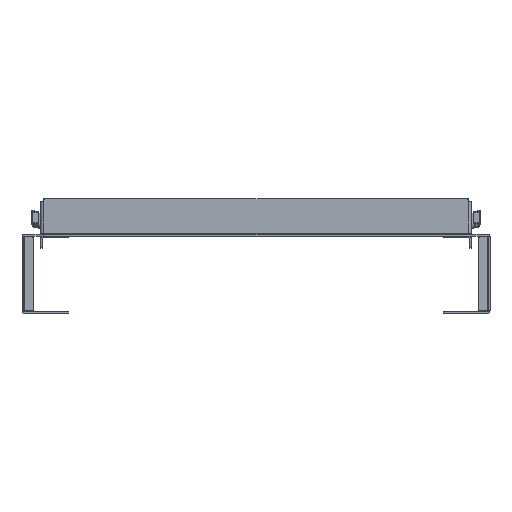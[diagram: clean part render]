
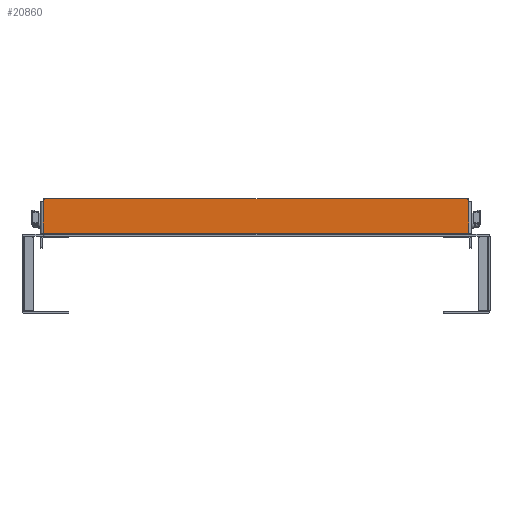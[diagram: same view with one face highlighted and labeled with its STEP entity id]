
A CAD part, front view. The second image highlights one B-rep face of the part: STEP entity #20860.
In plain terms, the highlighted planar face has unit normal (0, -1, 0) as drawn and (0, 1, 0) by its records, which use the part's own axes.
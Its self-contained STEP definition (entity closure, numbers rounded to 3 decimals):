
#361 = CARTESIAN_POINT ( 'NONE',  ( -13.4, 1.5, -179. ) ) ;
#827 = EDGE_CURVE ( 'NONE', #25012, #5665, #3097, .T. ) ;
#1043 = CARTESIAN_POINT ( 'NONE',  ( 13.4, 1.5, -179. ) ) ;
#1066 = DIRECTION ( 'NONE',  ( -1., 0., 0. ) ) ;
#1129 = CARTESIAN_POINT ( 'NONE',  ( -13.4, 1.5, 179. ) ) ;
#1240 = EDGE_CURVE ( 'NONE', #13788, #8624, #20373, .T. ) ;
#2066 = EDGE_CURVE ( 'NONE', #5665, #14979, #7338, .T. ) ;
#2204 = LINE ( 'NONE', #21109, #18207 ) ;
#2237 = CARTESIAN_POINT ( 'NONE',  ( -13.735, 1.5, 179. ) ) ;
#2567 = CARTESIAN_POINT ( 'NONE',  ( -15.835, 1.5, 179. ) ) ;
#3097 = CIRCLE ( 'NONE', #11026, 2. ) ;
#3109 = CIRCLE ( 'NONE', #18522, 2. ) ;
#3381 = LINE ( 'NONE', #1043, #21339 ) ;
#3611 = DIRECTION ( 'NONE',  ( 0., 1., 0. ) ) ;
#3920 = CARTESIAN_POINT ( 'NONE',  ( 13.835, 1.5, 179. ) ) ;
#3962 = EDGE_CURVE ( 'NONE', #20507, #8624, #21137, .T. ) ;
#4120 = ORIENTED_EDGE ( 'NONE', *, *, #5629, .T. ) ;
#4261 = VERTEX_POINT ( 'NONE', #7614 ) ;
#5307 = DIRECTION ( 'NONE',  ( -1., 0., 0. ) ) ;
#5629 = EDGE_CURVE ( 'NONE', #14979, #4261, #3109, .T. ) ;
#5665 = VERTEX_POINT ( 'NONE', #24456 ) ;
#6394 = ORIENTED_EDGE ( 'NONE', *, *, #15211, .T. ) ;
#7338 = LINE ( 'NONE', #18090, #11088 ) ;
#7463 = DIRECTION ( 'NONE',  ( 1., 0., 0. ) ) ;
#7614 = CARTESIAN_POINT ( 'NONE',  ( 13.835, 1.5, -179. ) ) ;
#8075 = VECTOR ( 'NONE', #24855, 1000. ) ;
#8329 = ORIENTED_EDGE ( 'NONE', *, *, #19586, .T. ) ;
#8624 = VERTEX_POINT ( 'NONE', #25640 ) ;
#9231 = ORIENTED_EDGE ( 'NONE', *, *, #15019, .F. ) ;
#9515 = VECTOR ( 'NONE', #9695, 1000. ) ;
#9695 = DIRECTION ( 'NONE',  ( 1., 0., 0. ) ) ;
#10180 = VERTEX_POINT ( 'NONE', #25340 ) ;
#10299 = EDGE_CURVE ( 'NONE', #25012, #10757, #26170, .T. ) ;
#10757 = VERTEX_POINT ( 'NONE', #26817 ) ;
#11026 = AXIS2_PLACEMENT_3D ( 'NONE', #13548, #22368, #7463 ) ;
#11088 = VECTOR ( 'NONE', #13825, 1000. ) ;
#11486 = DIRECTION ( 'NONE',  ( 1., 0., 0. ) ) ;
#11896 = ORIENTED_EDGE ( 'NONE', *, *, #827, .T. ) ;
#12460 = DIRECTION ( 'NONE',  ( 0., 0., -1. ) ) ;
#13548 = CARTESIAN_POINT ( 'NONE',  ( 13.835, 1.5, 177. ) ) ;
#13788 = VERTEX_POINT ( 'NONE', #361 ) ;
#13825 = DIRECTION ( 'NONE',  ( 0., 0., -1. ) ) ;
#13991 = EDGE_LOOP ( 'NONE', ( #25858, #11896, #16558, #4120, #6394, #21293, #19761, #20877, #9231, #8329 ) ) ;
#14887 = DIRECTION ( 'NONE',  ( -1., 0., 0. ) ) ;
#14979 = VERTEX_POINT ( 'NONE', #24578 ) ;
#15019 = EDGE_CURVE ( 'NONE', #27126, #20507, #20453, .T. ) ;
#15211 = EDGE_CURVE ( 'NONE', #4261, #10180, #2204, .T. ) ;
#15491 = CARTESIAN_POINT ( 'NONE',  ( -13.4, 1.5, 179. ) ) ;
#15639 = DIRECTION ( 'NONE',  ( 1., 0., 0. ) ) ;
#15831 = CARTESIAN_POINT ( 'NONE',  ( -13.735, 1.5, 179. ) ) ;
#16240 = EDGE_CURVE ( 'NONE', #10180, #13788, #3381, .T. ) ;
#16438 = CARTESIAN_POINT ( 'NONE',  ( -15.835, 1.5, 179. ) ) ;
#16558 = ORIENTED_EDGE ( 'NONE', *, *, #2066, .T. ) ;
#17295 = FACE_OUTER_BOUND ( 'NONE', #13991, .T. ) ;
#17975 = LINE ( 'NONE', #15491, #9515 ) ;
#18090 = CARTESIAN_POINT ( 'NONE',  ( 15.835, 1.5, 179. ) ) ;
#18207 = VECTOR ( 'NONE', #14887, 1000. ) ;
#18226 = VECTOR ( 'NONE', #12460, 1000. ) ;
#18522 = AXIS2_PLACEMENT_3D ( 'NONE', #19905, #3611, #11486 ) ;
#19266 = DIRECTION ( 'NONE',  ( -1., 0., 0. ) ) ;
#19586 = EDGE_CURVE ( 'NONE', #27126, #10757, #17975, .T. ) ;
#19761 = ORIENTED_EDGE ( 'NONE', *, *, #1240, .T. ) ;
#19905 = CARTESIAN_POINT ( 'NONE',  ( 13.835, 1.5, -177. ) ) ;
#20373 = LINE ( 'NONE', #24506, #21631 ) ;
#20453 = LINE ( 'NONE', #16438, #8075 ) ;
#20507 = VERTEX_POINT ( 'NONE', #15831 ) ;
#20860 = ADVANCED_FACE ( 'NONE', ( #17295 ), #23361, .F. ) ;
#20877 = ORIENTED_EDGE ( 'NONE', *, *, #3962, .F. ) ;
#21109 = CARTESIAN_POINT ( 'NONE',  ( -15.835, 1.5, -179. ) ) ;
#21137 = LINE ( 'NONE', #2237, #18226 ) ;
#21293 = ORIENTED_EDGE ( 'NONE', *, *, #16240, .T. ) ;
#21339 = VECTOR ( 'NONE', #5307, 1000. ) ;
#21631 = VECTOR ( 'NONE', #1066, 1000. ) ;
#22368 = DIRECTION ( 'NONE',  ( 0., 1., 0. ) ) ;
#23361 = PLANE ( 'NONE',  #27189 ) ;
#24456 = CARTESIAN_POINT ( 'NONE',  ( 15.835, 1.5, 177. ) ) ;
#24506 = CARTESIAN_POINT ( 'NONE',  ( -15.835, 1.5, -179. ) ) ;
#24578 = CARTESIAN_POINT ( 'NONE',  ( 15.835, 1.5, -177. ) ) ;
#24855 = DIRECTION ( 'NONE',  ( -1., 0., 0. ) ) ;
#25012 = VERTEX_POINT ( 'NONE', #3920 ) ;
#25340 = CARTESIAN_POINT ( 'NONE',  ( 13.4, 1.5, -179. ) ) ;
#25566 = CARTESIAN_POINT ( 'NONE',  ( -15.835, 1.5, 179. ) ) ;
#25640 = CARTESIAN_POINT ( 'NONE',  ( -13.735, 1.5, -179. ) ) ;
#25725 = DIRECTION ( 'NONE',  ( 0., -1., 0. ) ) ;
#25858 = ORIENTED_EDGE ( 'NONE', *, *, #10299, .F. ) ;
#26170 = LINE ( 'NONE', #2567, #27042 ) ;
#26817 = CARTESIAN_POINT ( 'NONE',  ( 13.4, 1.5, 179. ) ) ;
#27042 = VECTOR ( 'NONE', #19266, 1000. ) ;
#27126 = VERTEX_POINT ( 'NONE', #1129 ) ;
#27189 = AXIS2_PLACEMENT_3D ( 'NONE', #25566, #25725, #15639 ) ;
